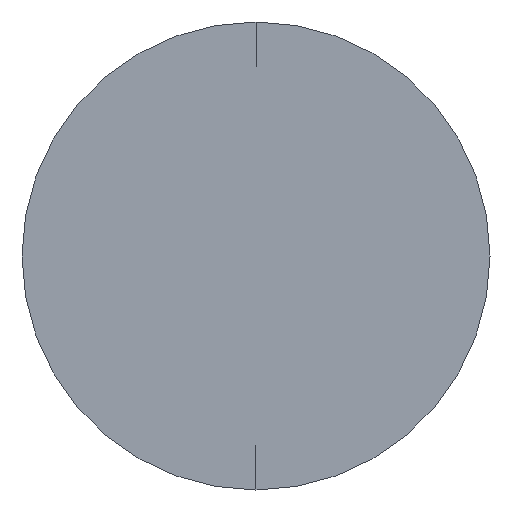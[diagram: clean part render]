
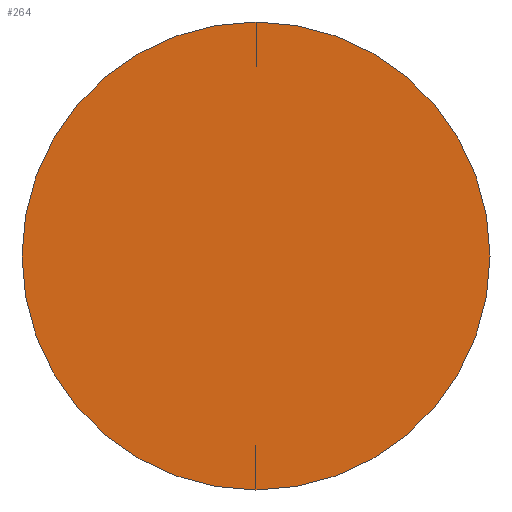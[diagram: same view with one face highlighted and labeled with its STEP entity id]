
A CAD part, left-side view. The second image highlights one B-rep face of the part: STEP entity #264.
In plain terms, the highlighted planar face has unit normal (-1, 0, 0).
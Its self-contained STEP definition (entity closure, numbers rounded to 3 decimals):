
#23 = ORIENTED_EDGE ( 'NONE', *, *, #70, .T. ) ;
#28 = CARTESIAN_POINT ( 'NONE',  ( 0., 0., 0. ) ) ;
#35 = DIRECTION ( 'NONE',  ( 0., 0., 1. ) ) ;
#56 = FACE_OUTER_BOUND ( 'NONE', #145, .T. ) ;
#66 = AXIS2_PLACEMENT_3D ( 'NONE', #251, #223, #35 ) ;
#70 = EDGE_CURVE ( 'NONE', #194, #90, #150, .T. ) ;
#90 = VERTEX_POINT ( 'NONE', #271 ) ;
#94 = CARTESIAN_POINT ( 'NONE',  ( 0., 0., 0. ) ) ;
#118 = DIRECTION ( 'NONE',  ( 0., 0., 1. ) ) ;
#128 = CARTESIAN_POINT ( 'NONE',  ( 0., 0., 1.5 ) ) ;
#139 = DIRECTION ( 'NONE',  ( 1., 0., 0. ) ) ;
#145 = EDGE_LOOP ( 'NONE', ( #23, #151 ) ) ;
#150 = CIRCLE ( 'NONE', #66, 1.5 ) ;
#151 = ORIENTED_EDGE ( 'NONE', *, *, #278, .T. ) ;
#166 = CIRCLE ( 'NONE', #201, 1.5 ) ;
#185 = DIRECTION ( 'NONE',  ( 0., 0., -1. ) ) ;
#194 = VERTEX_POINT ( 'NONE', #128 ) ;
#201 = AXIS2_PLACEMENT_3D ( 'NONE', #94, #232, #118 ) ;
#223 = DIRECTION ( 'NONE',  ( -1., 0., 0. ) ) ;
#229 = PLANE ( 'NONE',  #268 ) ;
#232 = DIRECTION ( 'NONE',  ( -1., 0., 0. ) ) ;
#251 = CARTESIAN_POINT ( 'NONE',  ( 0., 0., 0. ) ) ;
#264 = ADVANCED_FACE ( 'NONE', ( #56 ), #229, .F. ) ;
#268 = AXIS2_PLACEMENT_3D ( 'NONE', #28, #139, #185 ) ;
#271 = CARTESIAN_POINT ( 'NONE',  ( 0., 0., -1.5 ) ) ;
#278 = EDGE_CURVE ( 'NONE', #90, #194, #166, .T. ) ;
